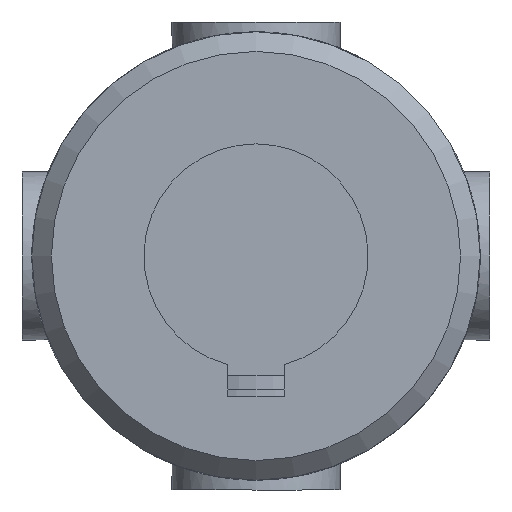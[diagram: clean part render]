
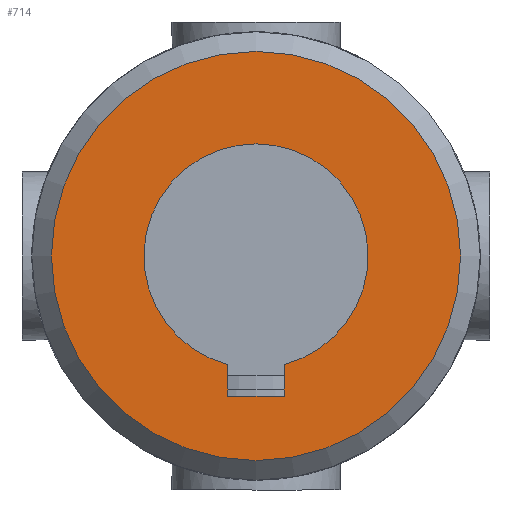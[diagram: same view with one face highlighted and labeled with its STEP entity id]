
A CAD part, front view. The second image highlights one B-rep face of the part: STEP entity #714.
In plain terms, the highlighted planar face has unit normal (0, -1, 0).
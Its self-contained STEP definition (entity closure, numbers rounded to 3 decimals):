
#81=LINE('',#1096,#114);
#86=LINE('',#1113,#119);
#87=LINE('',#1122,#120);
#114=VECTOR('',#896,1.127);
#119=VECTOR('',#907,1.127);
#120=VECTOR('',#910,2.);
#146=PLANE('',#779);
#171=FACE_BOUND('',#259,.T.);
#200=FACE_OUTER_BOUND('',#258,.T.);
#258=EDGE_LOOP('',(#571));
#259=EDGE_LOOP('',(#572,#573,#574,#575));
#300=CIRCLE('',#767,4.);
#305=CIRCLE('',#777,7.3);
#342=VERTEX_POINT('',#1085);
#343=VERTEX_POINT('',#1087);
#345=VERTEX_POINT('',#1095);
#351=VERTEX_POINT('',#1111);
#353=VERTEX_POINT('',#1128);
#417=EDGE_CURVE('',#343,#342,#300,.T.);
#420=EDGE_CURVE('',#345,#343,#81,.T.);
#428=EDGE_CURVE('',#342,#351,#86,.T.);
#430=EDGE_CURVE('',#351,#345,#87,.T.);
#433=EDGE_CURVE('',#353,#353,#305,.T.);
#571=ORIENTED_EDGE('',*,*,#433,.F.);
#572=ORIENTED_EDGE('',*,*,#428,.T.);
#573=ORIENTED_EDGE('',*,*,#430,.T.);
#574=ORIENTED_EDGE('',*,*,#420,.T.);
#575=ORIENTED_EDGE('',*,*,#417,.T.);
#714=ADVANCED_FACE('',(#200,#171),#146,.F.);
#767=AXIS2_PLACEMENT_3D('',#1088,#891,#892);
#777=AXIS2_PLACEMENT_3D('',#1129,#919,#920);
#779=AXIS2_PLACEMENT_3D('',#1297,#927,#928);
#891=DIRECTION('center_axis',(0.,1.,0.));
#892=DIRECTION('ref_axis',(-0.25,0.,0.968));
#896=DIRECTION('',(0.,0.,1.));
#907=DIRECTION('',(0.,0.,-1.));
#910=DIRECTION('',(-1.,0.,0.));
#919=DIRECTION('center_axis',(0.,1.,0.));
#920=DIRECTION('ref_axis',(1.,0.,0.));
#927=DIRECTION('center_axis',(0.,1.,0.));
#928=DIRECTION('ref_axis',(0.,0.,1.));
#1085=CARTESIAN_POINT('',(1.,-24.,-3.873));
#1087=CARTESIAN_POINT('',(-1.,-24.,-3.873));
#1088=CARTESIAN_POINT('Origin',(0.,-24.,0.));
#1095=CARTESIAN_POINT('',(-1.,-24.,-5.));
#1096=CARTESIAN_POINT('',(-1.,-24.,-2.5));
#1111=CARTESIAN_POINT('',(1.,-24.,-5.));
#1113=CARTESIAN_POINT('',(1.,-24.,-1.936));
#1122=CARTESIAN_POINT('',(0.5,-24.,-5.));
#1128=CARTESIAN_POINT('',(-7.3,-24.,0.));
#1129=CARTESIAN_POINT('Origin',(0.,-24.,0.));
#1297=CARTESIAN_POINT('Origin',(0.,-24.,0.));
